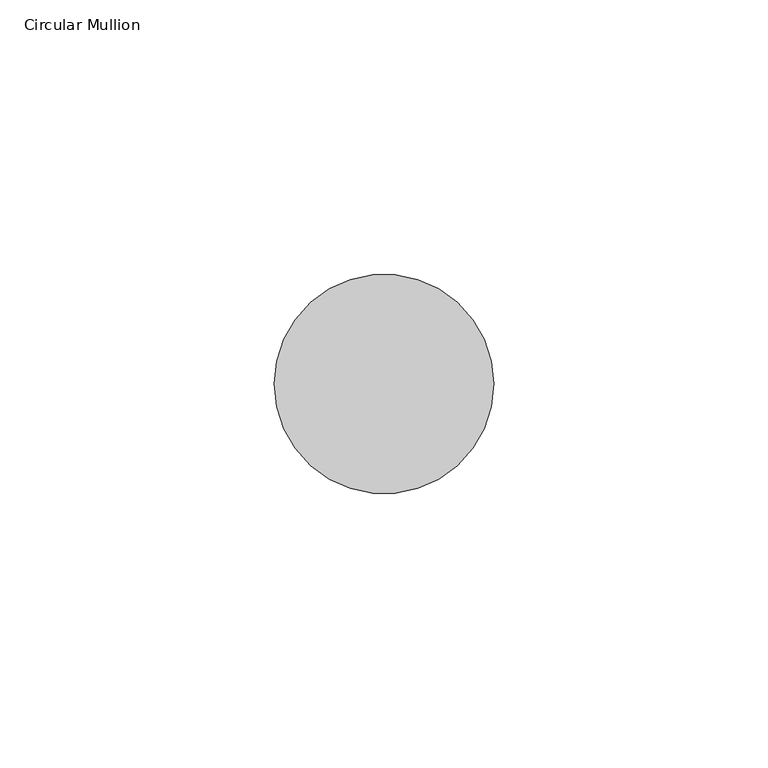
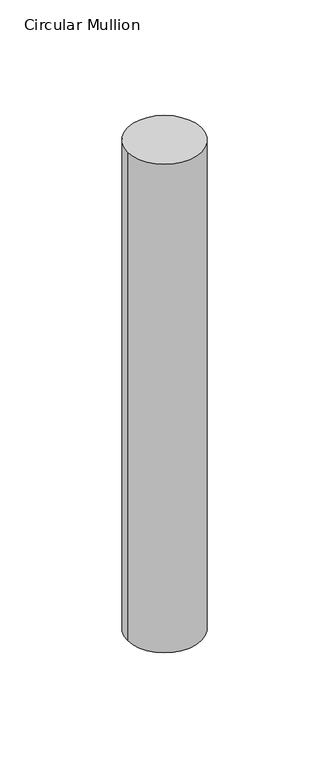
"""IFC4 building model written with IfcOpenShell, lengths in millimetres: member geometry, Circular Mullion : GRADIL 40mm."""

from ifc_helpers import new_model, si_unit, point, frame, origin, origin_2d, place, context, project, spatial, circle_curve, trimmed, segment, composite_curve, outline, extrude, source, transform, mapped, element, save


def circular_mullion_f2f76ee6(model_context):
    return source(origin(), model_context, "Body", "SweptSolid", [
        extrude(outline(composite_curve([segment(trimmed(circle_curve(origin_2d(), 20.0), [point((20.0, 0.0))], [point((-20.0, 0.0))], False, "CARTESIAN"), True, "CONTINUOUS"), segment(trimmed(circle_curve(origin_2d(), 20.0), [point((-20.0, 0.0))], [point((20.0, 0.0))], False, "CARTESIAN"), True, "CONTINUOUS")], self_intersect=False)), frame((0.0, 0.0, -280.0), z_axis=(0.0, 0.0, 1.0), x_axis=(1.0, 0.0, 0.0)), (0.0, 0.0, 1.0), 280.0),
    ])


if __name__ == "__main__":
    model = new_model("IFC4")
    model_context = context("Model", 3, world=origin())
    ifc_project = project(units=[si_unit("LENGTHUNIT", "METRE", prefix="MILLI")], contexts=[model_context])
    site = spatial("IfcSite", under=ifc_project)
    building = spatial("IfcBuilding", under=site)
    placement = place(None, origin())
    circular_mullion_shape = circular_mullion_f2f76ee6(model_context)
    element("IfcMember", 1, ObjectType="Circular Mullion : GRADIL 40mm", at=placement, inside=building, context=model_context, shape_type="MappedRepresentation", body=[
        mapped(circular_mullion_shape, transform((0.0, 0.0, 0.0), x_axis=(1.0, 0.0, 0.0), y_axis=(0.0, 1.0, 0.0), z_axis=(0.0, 0.0, 1.0))),
    ])
    save(model, "model.ifc")
